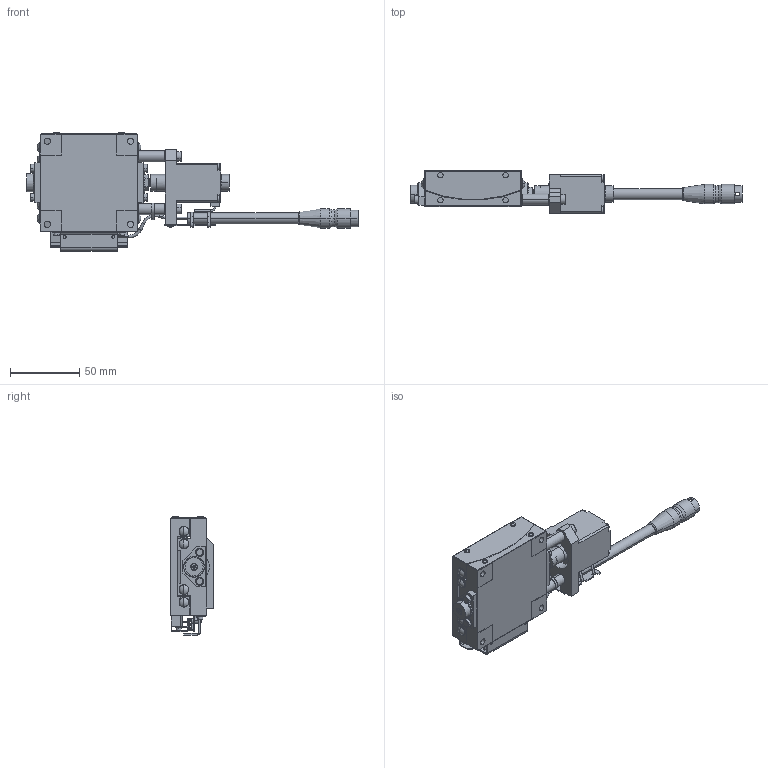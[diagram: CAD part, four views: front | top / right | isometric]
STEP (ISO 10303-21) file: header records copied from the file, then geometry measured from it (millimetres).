
FILE_DESCRIPTION (( 'STEP AP214' ), '1' );
FILE_NAME ('KGB07070AT-LT.STEP', '2024-04-17T00:51:57', ( '' ), ( '' ), 'SwSTEP 2.0', 'SolidWorks 2017', '' );
FILE_SCHEMA (( 'AUTOMOTIVE_DESIGN' ));
Length unit declared in the file: millimetre
Products named in the file (5): KGB07070AT-LT; KGB-TOP-07070-L; KGB-BASE-07070-L; KGB-70-T-12-L; KGB-70-T-L
Assembly tree (4 placements, depth 2):
  KGB07070AT-LT
    KGB-BASE-07070-L
    KGB-TOP-07070-L
    KGB-70-T-L
    KGB-70-T-12-L
Bounding box: 239.4 x 31 x 85.1 mm (x, y, z)
Volume: 178232.8 mm3; surface area: 61444.8 mm2
Topology: 8 solids, 47 shells, 1396 faces, 3442 edges, 2214 vertices
Faces by surface type: plane 725, cylinder 469, cone 106, torus 54, bspline 22, sphere 20
Entity records: 42530 total; most frequent: CARTESIAN_POINT 7981, DIRECTION 7352, ORIENTED_EDGE 6792, EDGE_CURVE 3396, AXIS2_PLACEMENT_3D 2617, VERTEX_POINT 2214, VECTOR 2118, LINE 2118
